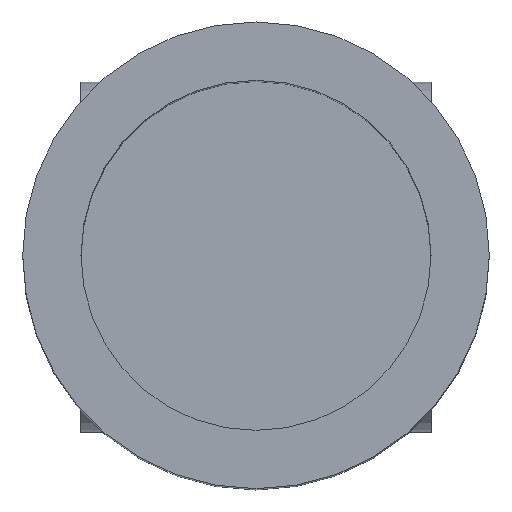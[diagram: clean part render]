
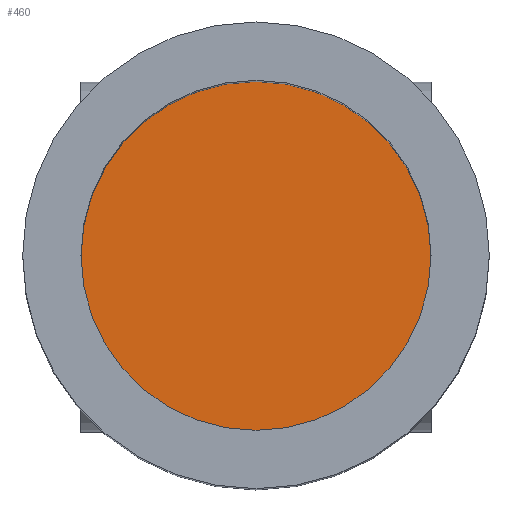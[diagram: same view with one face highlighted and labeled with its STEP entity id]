
A CAD part, top view. The second image highlights one B-rep face of the part: STEP entity #460.
In plain terms, the highlighted planar face has unit normal (0, 0, 1).
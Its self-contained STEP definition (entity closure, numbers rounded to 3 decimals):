
#394 = CYLINDRICAL_SURFACE('',#395,3.);
#395 = AXIS2_PLACEMENT_3D('',#396,#397,#398);
#396 = CARTESIAN_POINT('',(0.,0.,24.3));
#397 = DIRECTION('',(-0.,-0.,-1.));
#398 = DIRECTION('',(1.,0.,0.));
#409 = EDGE_CURVE('',#410,#410,#412,.T.);
#410 = VERTEX_POINT('',#411);
#411 = CARTESIAN_POINT('',(3.,0.,24.3));
#412 = SURFACE_CURVE('',#413,(#418,#425),.PCURVE_S1.);
#413 = CIRCLE('',#414,3.);
#414 = AXIS2_PLACEMENT_3D('',#415,#416,#417);
#415 = CARTESIAN_POINT('',(0.,0.,24.3));
#416 = DIRECTION('',(0.,0.,1.));
#417 = DIRECTION('',(1.,0.,0.));
#418 = PCURVE('',#394,#419);
#419 = DEFINITIONAL_REPRESENTATION('',(#420),#424);
#420 = LINE('',#421,#422);
#421 = CARTESIAN_POINT('',(-0.,0.));
#422 = VECTOR('',#423,1.);
#423 = DIRECTION('',(-1.,0.));
#424 = ( GEOMETRIC_REPRESENTATION_CONTEXT(2) 
PARAMETRIC_REPRESENTATION_CONTEXT() REPRESENTATION_CONTEXT('2D SPACE',''
  ) );
#425 = PCURVE('',#426,#431);
#426 = PLANE('',#427);
#427 = AXIS2_PLACEMENT_3D('',#428,#429,#430);
#428 = CARTESIAN_POINT('',(0.,0.,24.3)
  );
#429 = DIRECTION('',(0.,0.,1.));
#430 = DIRECTION('',(1.,0.,-0.));
#431 = DEFINITIONAL_REPRESENTATION('',(#432),#436);
#432 = CIRCLE('',#433,3.);
#433 = AXIS2_PLACEMENT_2D('',#434,#435);
#434 = CARTESIAN_POINT('',(0.,0.));
#435 = DIRECTION('',(1.,0.));
#436 = ( GEOMETRIC_REPRESENTATION_CONTEXT(2) 
PARAMETRIC_REPRESENTATION_CONTEXT() REPRESENTATION_CONTEXT('2D SPACE',''
  ) );
#460 = ADVANCED_FACE('',(#461),#426,.T.);
#461 = FACE_BOUND('',#462,.T.);
#462 = EDGE_LOOP('',(#463));
#463 = ORIENTED_EDGE('',*,*,#409,.T.);
